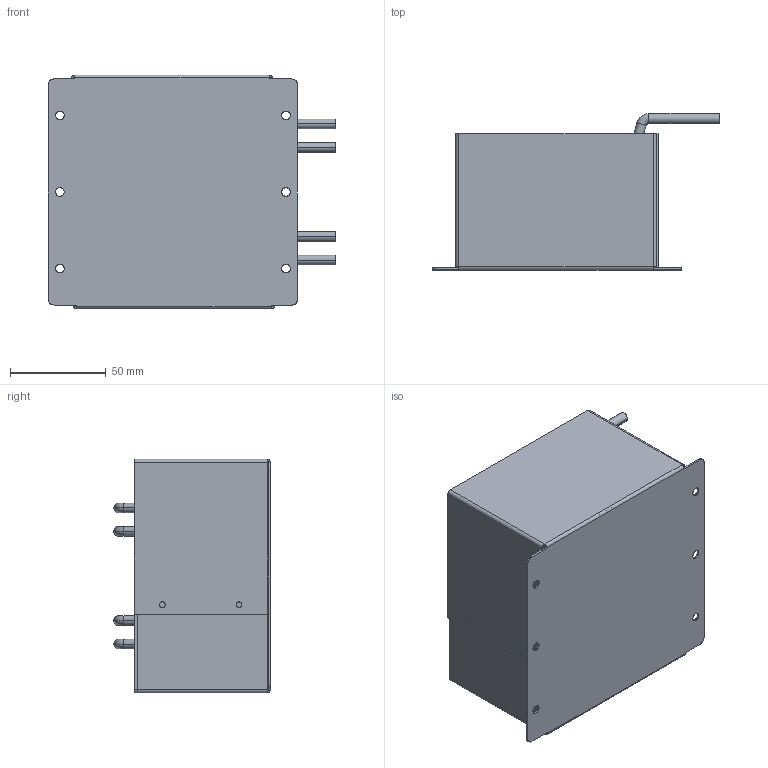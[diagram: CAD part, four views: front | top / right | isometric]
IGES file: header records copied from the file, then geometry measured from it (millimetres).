
Start section: SolidWorks IGES file using analytic representation for surfaces
Global section: file name: 19H\\10.106.230.1\r&d file\05_COMP\02_Mechanical\10_Others\PV_RT 81\网络用3D模型\灌封模型\S-5KW-S-ACL\S-5KW_S_ACL 总装.IGS; native system: SolidWorks 2009; preprocessor: SolidWorks 2009; author: 钱雅婧, ,; organization: 11; date: 120507.171234; units: millimetre
Bounding box: 149.9 x 81.5 x 122 mm (x, y, z)
Surface area: 156080.6 mm2 (no closed solid volume)
Topology: 0 solids, 0 shells, 128 faces, 928 edges, 928 vertices
Faces by surface type: bspline 72, revolution 56
